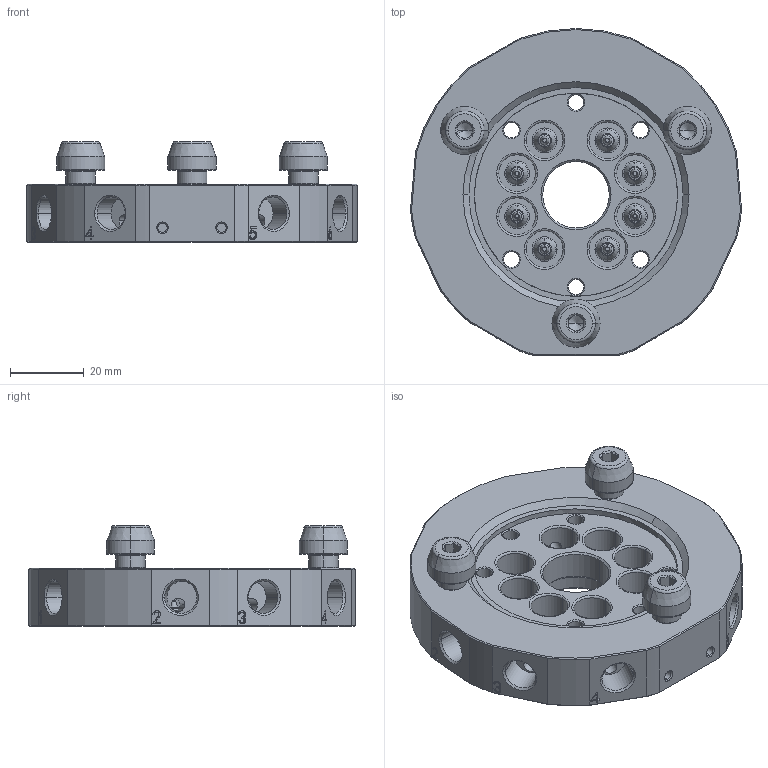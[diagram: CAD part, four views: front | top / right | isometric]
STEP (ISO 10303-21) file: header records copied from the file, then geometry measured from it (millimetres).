
FILE_DESCRIPTION (( 'STEP AP203' ), '1' );
FILE_NAME ('QC-G90(G).STEP', '2025-03-10T07:29:53', ( '' ), ( '' ), 'SwSTEP 2.0', 'SolidWorks 2022', '' );
FILE_SCHEMA (( 'CONFIG_CONTROL_DESIGN' ));
Length unit declared in the file: millimetre
Products named in the file (5): 4-1; 4; QC-G90(G).sldasm-Part-1; 4-2; QC-G90(G)
Assembly tree (4 placements, depth 2):
  QC-G90(G)
    4
    4-1
    4-2
    QC-G90(G).sldasm-Part-1
Bounding box: 89.64 x 88.5 x 27.3 mm (x, y, z)
Volume: 78474.8 mm3; surface area: 27360.8 mm2
Topology: 4 solids, 4 shells, 578 faces, 1314 edges, 798 vertices
Faces by surface type: plane 162, cone 144, cylinder 119, torus 100, bspline 53
Entity records: 20285 total; most frequent: CARTESIAN_POINT 6892, DIRECTION 2763, ORIENTED_EDGE 2612, EDGE_CURVE 1306, AXIS2_PLACEMENT_3D 1158, VERTEX_POINT 798, EDGE_LOOP 676, CIRCLE 626
